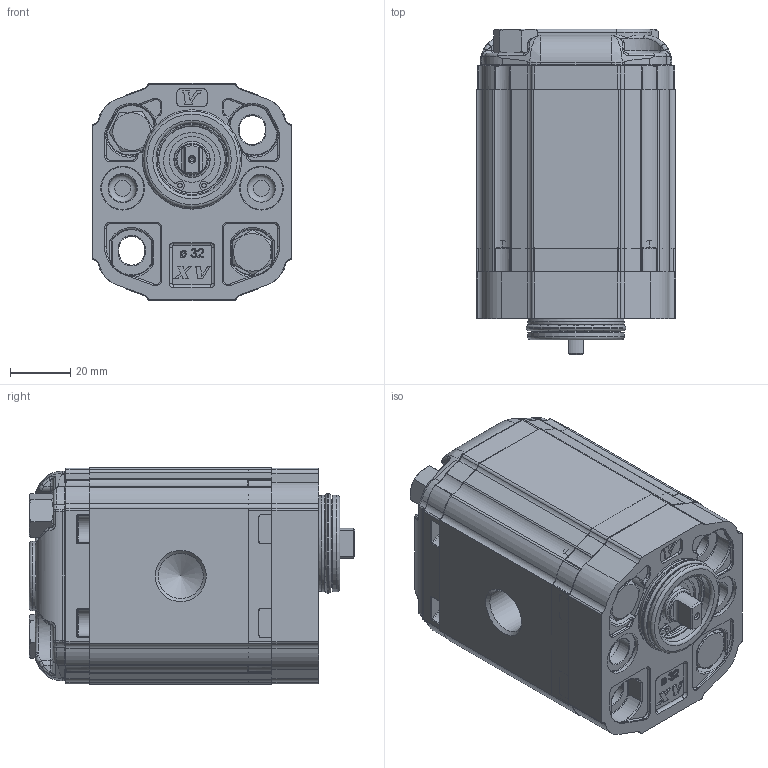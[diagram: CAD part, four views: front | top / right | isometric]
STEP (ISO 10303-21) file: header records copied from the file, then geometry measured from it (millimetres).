
FILE_DESCRIPTION( ( 'Unknown' ), '1' );
FILE_NAME( 'P:/montaggio_easy/output/STP/X1R3125DBBE.stp', 'Unknown', ( 'Unknown' ), ( 'Unknown' ), 'PSStep 14.0', 'Unknown', ' ' );
FILE_SCHEMA( ( 'AUTOMOTIVE_DESIGN { 1 0 10303 214 1 1 1 1 }' ) );
Length unit declared in the file: millimetre
Products named in the file (5): Assem1; X1R25; 1D; X1BBH60,5; XR119-E
Bounding box: 66 x 108 x 72 mm (x, y, z)
Surface area: 138384.1 mm2
Topology: 8 solids, 10 shells, 2614 faces, 6480 edges, 4020 vertices
Faces by surface type: plane 950, cylinder 818, torus 350, bspline 252, extrusion 126, cone 110, sphere 8
Full cylindrical faces by diameter (mm): 1.447 x4, 1.5 x2, 2.5 x2, 3 x8, 8 x8, 8.5 x6, 9 x4, 9.3 x4, 10 x2, 10.5 x4, 11.445 x4, 11.965 x2, 12 x6, 12.923 x2, 14.5 x4, 14.95 x4, 15.115 x2, 15.181 x2, 19 x2, 20 x2, 22 x4, 22.2 x2, 23 x2, 24 x2, 29.4 x4, 32 x4, 32.96 x2
Entity records: 56069 total; most frequent: CARTESIAN_POINT 15723, DIRECTION 6153, ORIENTED_EDGE 6150, EDGE_CURVE 3075, AXIS2_PLACEMENT_3D 2320, VERTEX_POINT 1965, VECTOR 1513, EDGE_LOOP 1506
